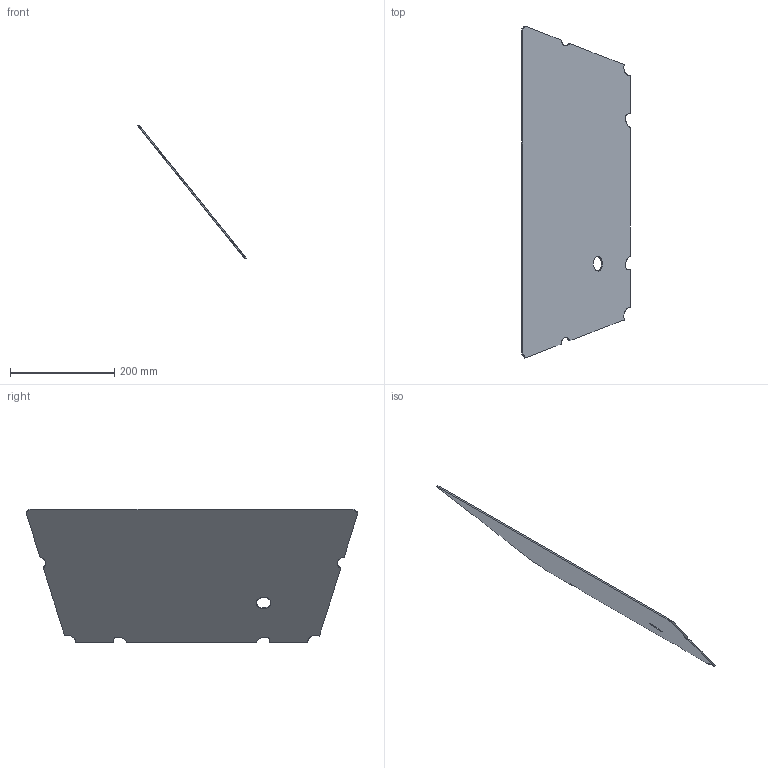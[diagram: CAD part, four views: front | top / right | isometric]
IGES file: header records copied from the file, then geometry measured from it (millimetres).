
Start section: START RECORD GO HERE.
Global section: file name: MS_04003 (Lower Part Bis).igs; native system: DASSAULT SYSTEMES CATIA Version 5-6 Release 2023 - www.3ds.com; preprocessor: V5-6R2023_5.33.5.0.08-23-2024.22.00; author: basti; organization: BASTIEN; date: 20241120.145138; units: millimetre
Bounding box: 207.76 x 637.37 x 256.96 mm (x, y, z)
Surface area: 368211.1 mm2 (no closed solid volume)
Topology: 0 solids, 0 shells, 46 faces, 264 edges, 264 vertices
Faces by surface type: extrusion 22, plane 22, revolution 2
